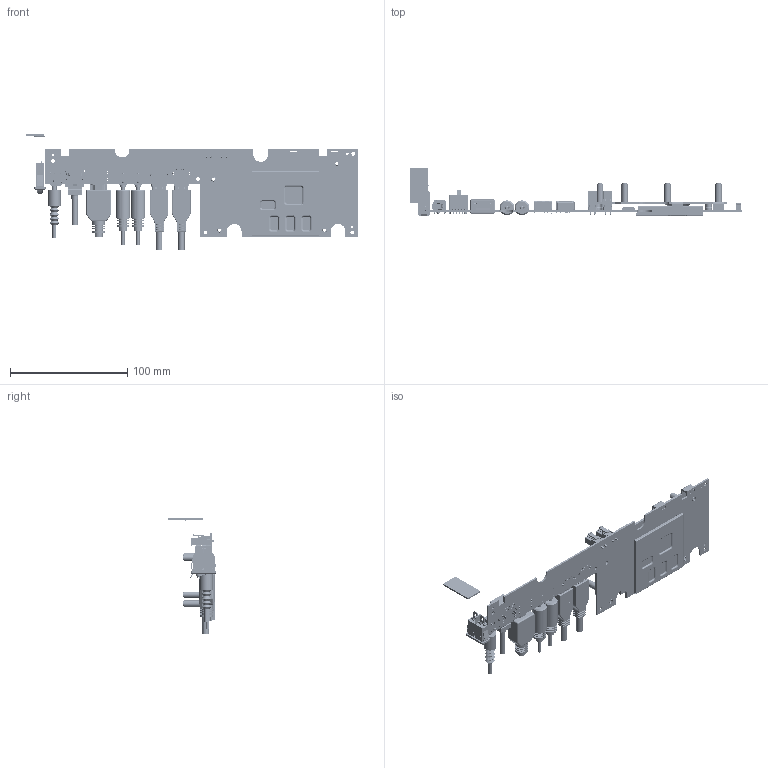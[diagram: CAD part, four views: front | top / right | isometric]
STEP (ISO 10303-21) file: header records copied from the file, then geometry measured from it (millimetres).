
FILE_DESCRIPTION((''),'2;1');
FILE_NAME('SWAN_PCB_ASSEMBLY_ASM','2020-08-21T',('G6003023'),(''),'PRO/ENGINEER BY PARAMETRIC TECHNOLOGY CORPORATION, 2013150','PRO/ENGINEER BY PARAMETRIC TECHNOLOGY CORPORATION, 2013150','');
FILE_SCHEMA(('CONFIG_CONTROL_DESIGN'));
Products named in the file (85): SWAN_PCB; SHD-6012D01-BLTN-T1-CUSTOMER; F860; MSBR-21; MSBR-20; MSBR-19; MSBR-18; MSBR-17; MSBR-16; MSBR-15; MSBR-14; MSBR-13; MSBR-12; MSBR-11; MSBR-10; MSBR-9; MSBR-8; MSBR-7; MSBR-6; MSBR-5; MSBR-4; MSBR-3; MSBR-2; MSBR-1; QJ-WFB4-IM_0325_ASM; 2SJ2296-000111; MSBR-1-011; _UB1112C-4K1-4F_3D-01; UB1112C-4K1-4F_3D-01_ASM; UEA1112C-4HK1-4F_3D; 86514-02XX_REV-1; POWER-PLUG; USB_PLUG; HDMI_CABLE_1; RJ45_PLUG; AUX_PLUG; SHIELDING_FRAME_TOP; SHIELDING_COVER_TOP; THERMAL-PAD-SOC-CUP-1-K5; SHIELDING_COVER_TOP_ASSY_ASM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
Assembly tree (106 placements, depth 4):
  SWAN_PCB_ASSEMBLY_ASM
    SWAN_PCB
    SHD-6012D01-BLTN-T1-CUSTOMER
    F860
    QJ-WFB4-IM_0325_ASM
      MSBR-21
      MSBR-20
      MSBR-19
      MSBR-18
      MSBR-17
      MSBR-16
      MSBR-15
      MSBR-14
      MSBR-13
      MSBR-12
      MSBR-11
      MSBR-10
      MSBR-9
      MSBR-8
      MSBR-7
      MSBR-6
      MSBR-5
      MSBR-4
      MSBR-3
      MSBR-2
      MSBR-1
    2SJ2296-000111  x2
    UB1112C-4K1-4F_3D-01_ASM
      MSBR-1-011
      _UB1112C-4K1-4F_3D-01
    UEA1112C-4HK1-4F_3D
    86514-02XX_REV-1  x2
    POWER-PLUG
    USB_PLUG  x2
    HDMI_CABLE_1
    RJ45_PLUG
    AUX_PLUG  x2
    SHIELDING_TOP_SOC_ASSY_ASM
      SHIELDING_FRAME_TOP
      SHIELDING_COVER_TOP_ASSY_ASM
        SHIELDING_COVER_TOP
        THERMAL-PAD-SOC-CUP-1-K5
    SHIELDING_BOTTOM_ASSY_ASM
      SHIELDING_FRAME_SOC
      SHIELDING_BOTTOM_SOC_ASSY_ASM
        SHIELDING_COVER_SOC
        THERMAL_PAD_SOC_02-K5
        THERMAL_PAD_SOC_03-K5  x4
    ANT_DUAL_ASM
      ANT_SPONGE
      ANT_PCB
      ANT_PCB_CABLE_1
    TBGA-14X14-153-H0_8
    UBGA-35X35-463S0
    FBGA-16X9-96CS0  x4
    STAND-NUT-411-00041-005  x4
    HEAT_SPREADER_TOP_SOC_ASSY_ASM
      HEAT_SPREADER_TOP_SOC
      STAND-OFF-M3-02  x5
      THERMAL-PAD-SOC-CUP-1-K5
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Bounding box: 282.94 x 40.87 x 98.96 mm (x, y, z)
Volume: 78832.1 mm3; surface area: 116268.3 mm2
Topology: 106 solids, 135 shells, 15033 faces, 41814 edges, 27096 vertices
Faces by surface type: plane 11063, cylinder 3102, bspline 398, cone 139, extrusion 126, torus 107, sphere 98
Entity records: 394493 total; most frequent: CARTESIAN_POINT 89548, ORIENTED_EDGE 65298, DIRECTION 60018, EDGE_CURVE 32649, VECTOR 26086, LINE 25962, VERTEX_POINT 21177, AXIS2_PLACEMENT_3D 16966
